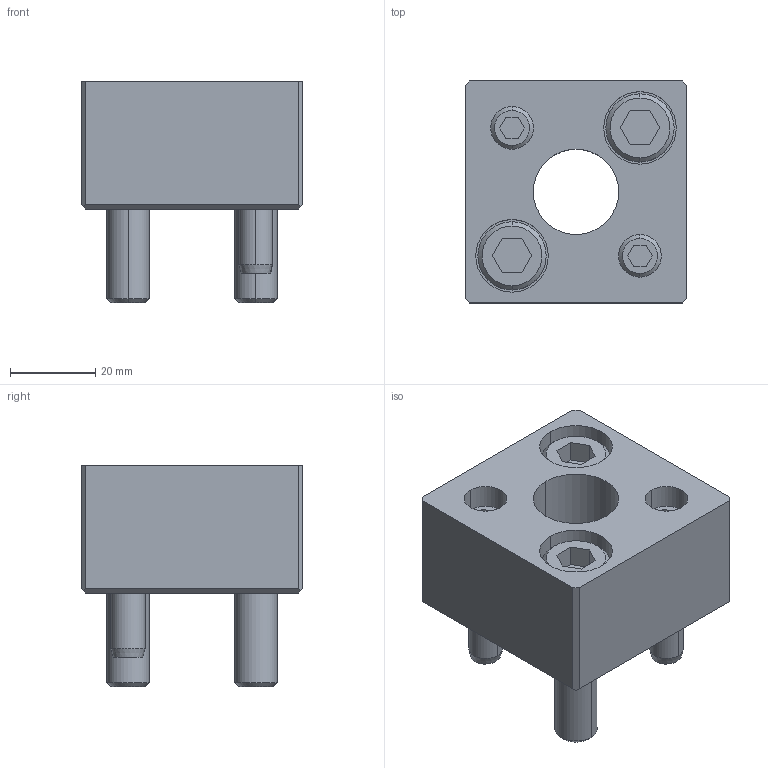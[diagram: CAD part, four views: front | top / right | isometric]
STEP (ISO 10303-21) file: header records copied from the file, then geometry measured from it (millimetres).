
FILE_DESCRIPTION(/* description */ (''),/* implementation_level */ '2;1');
FILE_NAME(/* name */ '3d_asfr20_03223_r00.stp',/* time_stamp */ '2011-01-10T14:17:34+09:00',/* author */ ('MISUMI'),/* organization */ (''),/* preprocessor_version */ 'ST-DEVELOPER v11',/* originating_system */ 'UGS - NX 5.0',/* authorisation */ '');
FILE_SCHEMA (('CONFIG_CONTROL_DESIGN'));
Length unit declared in the file: millimetre
Products named in the file (1): 3d_asfr20_03223_r00
Bounding box: 52 x 52 x 52 mm (x, y, z)
Volume: 70990.1 mm3; surface area: 23974.7 mm2
Topology: 7 solids, 7 shells, 139 faces, 310 edges, 199 vertices
Faces by surface type: plane 68, cylinder 45, cone 26
Entity records: 3982 total; most frequent: DIRECTION 700, CARTESIAN_POINT 694, ORIENTED_EDGE 620, EDGE_CURVE 310, AXIS2_PLACEMENT_3D 257, VERTEX_POINT 199, LINE 186, VECTOR 186
